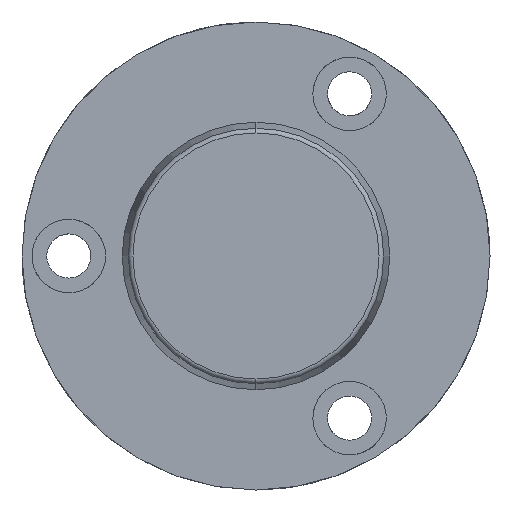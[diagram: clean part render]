
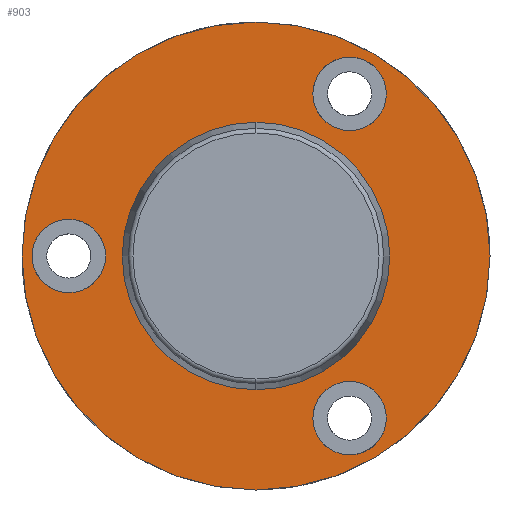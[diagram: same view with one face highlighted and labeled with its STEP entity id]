
A CAD part, left-side view. The second image highlights one B-rep face of the part: STEP entity #903.
In plain terms, the highlighted planar face has unit normal (-1, 0, 0).
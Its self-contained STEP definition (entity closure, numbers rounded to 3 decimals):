
#417=CARTESIAN_POINT('Vertex',(-12.,0.,-35.)) ;
#420=CARTESIAN_POINT('Axis2P3D Location',(-12.,0.,0.)) ;
#424=CARTESIAN_POINT('Vertex',(-12.,35.,0.)) ;
#427=CARTESIAN_POINT('Axis2P3D Location',(-12.,0.,0.)) ;
#431=CARTESIAN_POINT('Vertex',(-12.,0.,35.)) ;
#453=CARTESIAN_POINT('Axis2P3D Location',(-12.,0.,0.)) ;
#457=CARTESIAN_POINT('Vertex',(-12.,-35.,0.)) ;
#460=CARTESIAN_POINT('Axis2P3D Location',(-12.,0.,0.)) ;
#756=CARTESIAN_POINT('Axis2P3D Location',(-12.,18.5,0.)) ;
#767=CARTESIAN_POINT('Axis2P3D Location',(-12.,28.,0.)) ;
#771=CARTESIAN_POINT('Vertex',(-12.,28.,5.5)) ;
#773=CARTESIAN_POINT('Vertex',(-12.,33.5,0.)) ;
#776=CARTESIAN_POINT('Axis2P3D Location',(-12.,28.,0.)) ;
#780=CARTESIAN_POINT('Vertex',(-12.,22.5,0.)) ;
#783=CARTESIAN_POINT('Axis2P3D Location',(-12.,28.,0.)) ;
#787=CARTESIAN_POINT('Vertex',(-12.,28.,-5.5)) ;
#790=CARTESIAN_POINT('Axis2P3D Location',(-12.,28.,0.)) ;
#801=CARTESIAN_POINT('Axis2P3D Location',(-12.,-14.,24.249)) ;
#805=CARTESIAN_POINT('Vertex',(-12.,-8.5,24.249)) ;
#807=CARTESIAN_POINT('Vertex',(-12.,-14.,29.749)) ;
#810=CARTESIAN_POINT('Axis2P3D Location',(-12.,-14.,24.249)) ;
#814=CARTESIAN_POINT('Vertex',(-12.,-19.5,24.249)) ;
#817=CARTESIAN_POINT('Axis2P3D Location',(-12.,-14.,24.249)) ;
#821=CARTESIAN_POINT('Vertex',(-12.,-14.,18.749)) ;
#824=CARTESIAN_POINT('Axis2P3D Location',(-12.,-14.,24.249)) ;
#835=CARTESIAN_POINT('Axis2P3D Location',(-12.,-14.,-24.249)) ;
#839=CARTESIAN_POINT('Vertex',(-12.,-8.5,-24.249)) ;
#841=CARTESIAN_POINT('Vertex',(-12.,-14.,-18.749)) ;
#844=CARTESIAN_POINT('Axis2P3D Location',(-12.,-14.,-24.249)) ;
#848=CARTESIAN_POINT('Vertex',(-12.,-19.5,-24.249)) ;
#851=CARTESIAN_POINT('Axis2P3D Location',(-12.,-14.,-24.249)) ;
#855=CARTESIAN_POINT('Vertex',(-12.,-14.,-29.749)) ;
#858=CARTESIAN_POINT('Axis2P3D Location',(-12.,-14.,-24.249)) ;
#869=CARTESIAN_POINT('Axis2P3D Location',(-12.,0.,0.)) ;
#873=CARTESIAN_POINT('Vertex',(-12.,18.5,0.)) ;
#875=CARTESIAN_POINT('Vertex',(-12.,0.,18.5)) ;
#878=CARTESIAN_POINT('Axis2P3D Location',(-12.,0.,0.)) ;
#882=CARTESIAN_POINT('Vertex',(-12.,-18.5,0.)) ;
#885=CARTESIAN_POINT('Axis2P3D Location',(-12.,0.,0.)) ;
#889=CARTESIAN_POINT('Vertex',(-12.,0.,-18.5)) ;
#892=CARTESIAN_POINT('Axis2P3D Location',(-12.,0.,0.)) ;
#421=DIRECTION('Axis2P3D Direction',(-1.,-0.,-0.)) ;
#428=DIRECTION('Axis2P3D Direction',(-1.,-0.,-0.)) ;
#454=DIRECTION('Axis2P3D Direction',(-1.,-0.,-0.)) ;
#461=DIRECTION('Axis2P3D Direction',(-1.,-0.,-0.)) ;
#757=DIRECTION('Axis2P3D Direction',(1.,0.,-0.)) ;
#758=DIRECTION('Axis2P3D XDirection',(-0.,0.,-1.)) ;
#768=DIRECTION('Axis2P3D Direction',(1.,0.,-0.)) ;
#777=DIRECTION('Axis2P3D Direction',(1.,0.,-0.)) ;
#784=DIRECTION('Axis2P3D Direction',(1.,0.,-0.)) ;
#791=DIRECTION('Axis2P3D Direction',(1.,0.,-0.)) ;
#802=DIRECTION('Axis2P3D Direction',(1.,0.,-0.)) ;
#811=DIRECTION('Axis2P3D Direction',(1.,0.,-0.)) ;
#818=DIRECTION('Axis2P3D Direction',(1.,0.,-0.)) ;
#825=DIRECTION('Axis2P3D Direction',(1.,0.,-0.)) ;
#836=DIRECTION('Axis2P3D Direction',(1.,0.,-0.)) ;
#845=DIRECTION('Axis2P3D Direction',(1.,0.,-0.)) ;
#852=DIRECTION('Axis2P3D Direction',(1.,0.,-0.)) ;
#859=DIRECTION('Axis2P3D Direction',(1.,0.,-0.)) ;
#870=DIRECTION('Axis2P3D Direction',(1.,0.,-0.)) ;
#879=DIRECTION('Axis2P3D Direction',(1.,0.,-0.)) ;
#886=DIRECTION('Axis2P3D Direction',(1.,0.,-0.)) ;
#893=DIRECTION('Axis2P3D Direction',(1.,0.,-0.)) ;
#422=AXIS2_PLACEMENT_3D('Circle Axis2P3D',#420,#421,$) ;
#429=AXIS2_PLACEMENT_3D('Circle Axis2P3D',#427,#428,$) ;
#455=AXIS2_PLACEMENT_3D('Circle Axis2P3D',#453,#454,$) ;
#462=AXIS2_PLACEMENT_3D('Circle Axis2P3D',#460,#461,$) ;
#759=AXIS2_PLACEMENT_3D('Plane Axis2P3D',#756,#757,#758) ;
#769=AXIS2_PLACEMENT_3D('Circle Axis2P3D',#767,#768,$) ;
#778=AXIS2_PLACEMENT_3D('Circle Axis2P3D',#776,#777,$) ;
#785=AXIS2_PLACEMENT_3D('Circle Axis2P3D',#783,#784,$) ;
#792=AXIS2_PLACEMENT_3D('Circle Axis2P3D',#790,#791,$) ;
#803=AXIS2_PLACEMENT_3D('Circle Axis2P3D',#801,#802,$) ;
#812=AXIS2_PLACEMENT_3D('Circle Axis2P3D',#810,#811,$) ;
#819=AXIS2_PLACEMENT_3D('Circle Axis2P3D',#817,#818,$) ;
#826=AXIS2_PLACEMENT_3D('Circle Axis2P3D',#824,#825,$) ;
#837=AXIS2_PLACEMENT_3D('Circle Axis2P3D',#835,#836,$) ;
#846=AXIS2_PLACEMENT_3D('Circle Axis2P3D',#844,#845,$) ;
#853=AXIS2_PLACEMENT_3D('Circle Axis2P3D',#851,#852,$) ;
#860=AXIS2_PLACEMENT_3D('Circle Axis2P3D',#858,#859,$) ;
#871=AXIS2_PLACEMENT_3D('Circle Axis2P3D',#869,#870,$) ;
#880=AXIS2_PLACEMENT_3D('Circle Axis2P3D',#878,#879,$) ;
#887=AXIS2_PLACEMENT_3D('Circle Axis2P3D',#885,#886,$) ;
#894=AXIS2_PLACEMENT_3D('Circle Axis2P3D',#892,#893,$) ;
#762=ORIENTED_EDGE('',*,*,#426,.F.) ;
#763=ORIENTED_EDGE('',*,*,#464,.F.) ;
#764=ORIENTED_EDGE('',*,*,#459,.F.) ;
#765=ORIENTED_EDGE('',*,*,#433,.F.) ;
#796=ORIENTED_EDGE('',*,*,#775,.F.) ;
#797=ORIENTED_EDGE('',*,*,#782,.F.) ;
#798=ORIENTED_EDGE('',*,*,#789,.F.) ;
#799=ORIENTED_EDGE('',*,*,#794,.F.) ;
#830=ORIENTED_EDGE('',*,*,#809,.T.) ;
#831=ORIENTED_EDGE('',*,*,#816,.T.) ;
#832=ORIENTED_EDGE('',*,*,#823,.T.) ;
#833=ORIENTED_EDGE('',*,*,#828,.T.) ;
#864=ORIENTED_EDGE('',*,*,#843,.T.) ;
#865=ORIENTED_EDGE('',*,*,#850,.T.) ;
#866=ORIENTED_EDGE('',*,*,#857,.T.) ;
#867=ORIENTED_EDGE('',*,*,#862,.T.) ;
#898=ORIENTED_EDGE('',*,*,#877,.T.) ;
#899=ORIENTED_EDGE('',*,*,#884,.T.) ;
#900=ORIENTED_EDGE('',*,*,#891,.T.) ;
#901=ORIENTED_EDGE('',*,*,#896,.T.) ;
#800=FACE_BOUND('',#795,.T.) ;
#834=FACE_BOUND('',#829,.T.) ;
#868=FACE_BOUND('',#863,.T.) ;
#902=FACE_BOUND('',#897,.T.) ;
#903=ADVANCED_FACE('721-40x210',(#766,#800,#834,#868,#902),#760,.F.) ;
#423=CIRCLE('generated circle',#422,35.) ;
#430=CIRCLE('generated circle',#429,35.) ;
#456=CIRCLE('generated circle',#455,35.) ;
#463=CIRCLE('generated circle',#462,35.) ;
#770=CIRCLE('generated circle',#769,5.5) ;
#779=CIRCLE('generated circle',#778,5.5) ;
#786=CIRCLE('generated circle',#785,5.5) ;
#793=CIRCLE('generated circle',#792,5.5) ;
#804=CIRCLE('generated circle',#803,5.5) ;
#813=CIRCLE('generated circle',#812,5.5) ;
#820=CIRCLE('generated circle',#819,5.5) ;
#827=CIRCLE('generated circle',#826,5.5) ;
#838=CIRCLE('generated circle',#837,5.5) ;
#847=CIRCLE('generated circle',#846,5.5) ;
#854=CIRCLE('generated circle',#853,5.5) ;
#861=CIRCLE('generated circle',#860,5.5) ;
#872=CIRCLE('generated circle',#871,18.5) ;
#881=CIRCLE('generated circle',#880,18.5) ;
#888=CIRCLE('generated circle',#887,18.5) ;
#895=CIRCLE('generated circle',#894,18.5) ;
#426=EDGE_CURVE('',#418,#425,#423,.F.) ;
#433=EDGE_CURVE('',#425,#432,#430,.F.) ;
#459=EDGE_CURVE('',#432,#458,#456,.F.) ;
#464=EDGE_CURVE('',#458,#418,#463,.F.) ;
#775=EDGE_CURVE('',#772,#774,#770,.F.) ;
#782=EDGE_CURVE('',#781,#772,#779,.F.) ;
#789=EDGE_CURVE('',#788,#781,#786,.F.) ;
#794=EDGE_CURVE('',#774,#788,#793,.F.) ;
#809=EDGE_CURVE('',#806,#808,#804,.T.) ;
#816=EDGE_CURVE('',#808,#815,#813,.T.) ;
#823=EDGE_CURVE('',#815,#822,#820,.T.) ;
#828=EDGE_CURVE('',#822,#806,#827,.T.) ;
#843=EDGE_CURVE('',#840,#842,#838,.T.) ;
#850=EDGE_CURVE('',#842,#849,#847,.T.) ;
#857=EDGE_CURVE('',#849,#856,#854,.T.) ;
#862=EDGE_CURVE('',#856,#840,#861,.T.) ;
#877=EDGE_CURVE('',#874,#876,#872,.T.) ;
#884=EDGE_CURVE('',#876,#883,#881,.T.) ;
#891=EDGE_CURVE('',#883,#890,#888,.T.) ;
#896=EDGE_CURVE('',#890,#874,#895,.T.) ;
#761=EDGE_LOOP('',(#762,#763,#764,#765)) ;
#795=EDGE_LOOP('',(#796,#797,#798,#799)) ;
#829=EDGE_LOOP('',(#830,#831,#832,#833)) ;
#863=EDGE_LOOP('',(#864,#865,#866,#867)) ;
#897=EDGE_LOOP('',(#898,#899,#900,#901)) ;
#766=FACE_OUTER_BOUND('',#761,.T.) ;
#760=PLANE('Plane',#759) ;
#418=VERTEX_POINT('',#417) ;
#425=VERTEX_POINT('',#424) ;
#432=VERTEX_POINT('',#431) ;
#458=VERTEX_POINT('',#457) ;
#772=VERTEX_POINT('',#771) ;
#774=VERTEX_POINT('',#773) ;
#781=VERTEX_POINT('',#780) ;
#788=VERTEX_POINT('',#787) ;
#806=VERTEX_POINT('',#805) ;
#808=VERTEX_POINT('',#807) ;
#815=VERTEX_POINT('',#814) ;
#822=VERTEX_POINT('',#821) ;
#840=VERTEX_POINT('',#839) ;
#842=VERTEX_POINT('',#841) ;
#849=VERTEX_POINT('',#848) ;
#856=VERTEX_POINT('',#855) ;
#874=VERTEX_POINT('',#873) ;
#876=VERTEX_POINT('',#875) ;
#883=VERTEX_POINT('',#882) ;
#890=VERTEX_POINT('',#889) ;
